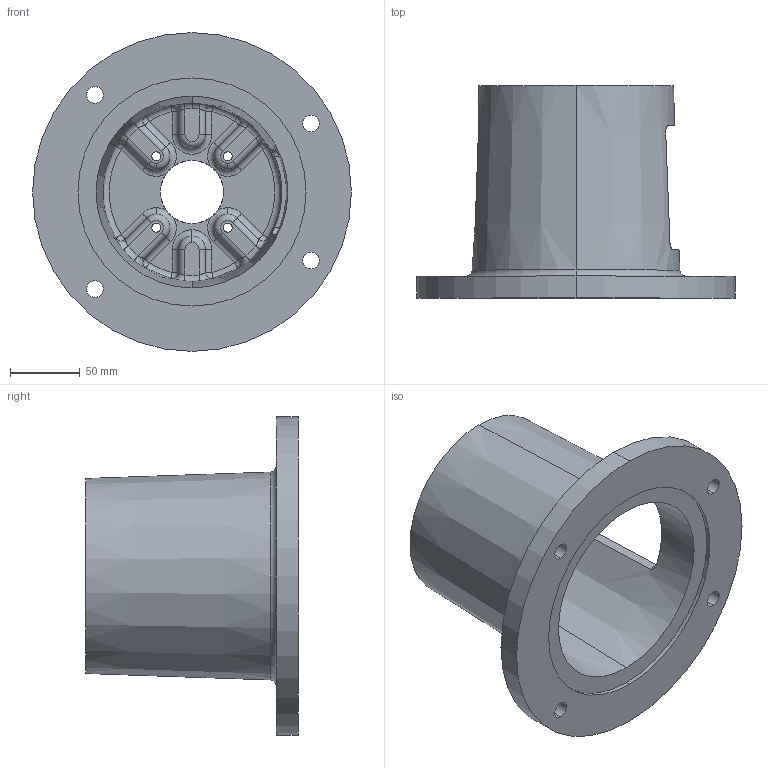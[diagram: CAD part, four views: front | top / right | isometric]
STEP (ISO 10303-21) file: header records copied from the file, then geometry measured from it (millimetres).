
FILE_DESCRIPTION (( 'STEP AP203' ), '1' );
FILE_NAME ('E644604F.STEP', '2014-11-03T17:59:40', ( '' ), ( '' ), 'SwSTEP 2.0', 'SolidWorks 2014', '' );
FILE_SCHEMA (( 'CONFIG_CONTROL_DESIGN' ));
Length unit declared in the file: inch
Products named in the file (1): E644604F
Bounding box: 228.6 x 152.4 x 228.6 mm (x, y, z)
Volume: 851659.9 mm3; surface area: 204666 mm2
Topology: 1 solids, 1 shells, 162 faces, 395 edges, 225 vertices
Faces by surface type: cylinder 59, torus 33, plane 30, bspline 24, sphere 12, cone 4
Entity records: 6342 total; most frequent: CARTESIAN_POINT 2557, DIRECTION 819, ORIENTED_EDGE 766, EDGE_CURVE 383, AXIS2_PLACEMENT_3D 361, VERTEX_POINT 225, CIRCLE 222, EDGE_LOOP 184
